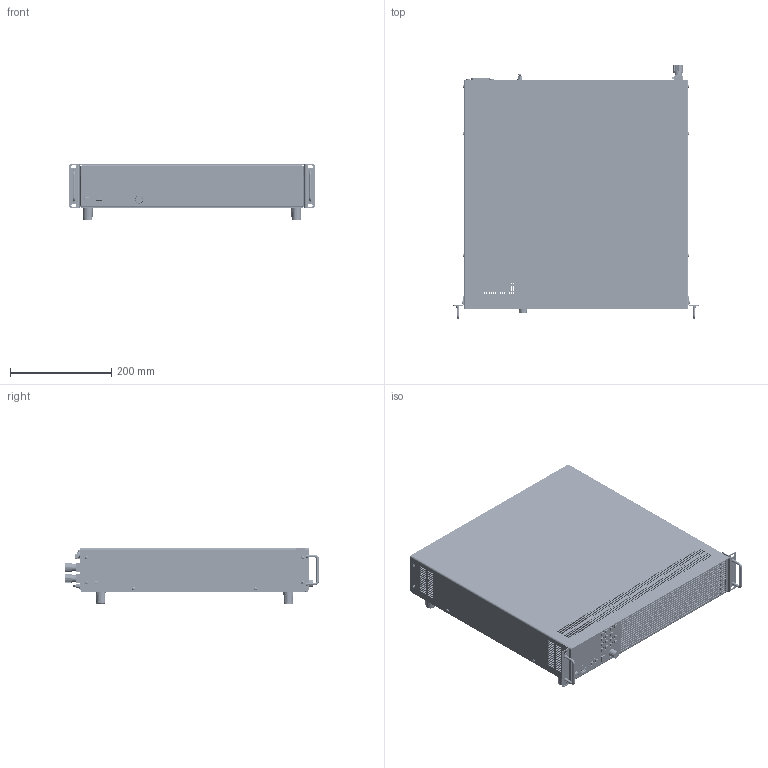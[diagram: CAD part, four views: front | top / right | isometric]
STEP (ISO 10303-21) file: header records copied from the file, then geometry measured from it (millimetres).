
FILE_DESCRIPTION(('STEP AP214'),'1');
FILE_NAME('PLI_M8_19Z_2HE_BPK4_60L_3D_02.step','2024-05-21T07:35:09',(' '),(' '),'Spatial InterOp 3D',' ',' ');
FILE_SCHEMA(('AUTOMOTIVE_DESIGN { 1 0 10303 214 1 1 1 1 }'));
Length unit declared in the file: millimetre
Products named in the file (20): 1458_PLI_19_Zoll_Boden_3D_03; 1617_PLI Frontplatte 19 mit SIL Tastatur_3D_03_mit_Einbauten_und_Overlay_BRB; A$C2C745159; PLI_Frontplatteneinbauten_nur_für_3D_Modellkonstruktion_3D; AutoCreatedBlock_1905; 1460_PLI_19_Zoll_Rückwand_3D_06_mit_Einbauten_BPK4_60L_BRB_02; 3xM2.5_5x5x12; 1F840730; 1E5E0040; *U713; *U714; *U715; 1460_PLI_19_Zoll_Rückwand_3D_06; PEM_M3_; AutoCreatedBlock_1925; AutoCreatedBlock_1911; 459_PLI_19_Zoll_Deckel_3D_03; DIN 965-A; AutoCreatedBlock_1899
Assembly tree (34 placements, depth 4):
  (unnamed)
    1458_PLI_19_Zoll_Boden_3D_03
    1617_PLI Frontplatte 19 mit SIL Tastatur_3D_03_mit_Einbauten_und_Overlay_BRB
      A$C2C745159
      PLI_Frontplatteneinbauten_nur_für_3D_Modellkonstruktion_3D
      AutoCreatedBlock_1905
    1460_PLI_19_Zoll_Rückwand_3D_06_mit_Einbauten_BPK4_60L_BRB_02
      3xM2.5_5x5x12  x2
      1F840730  x2
      1E5E0040
      *U713
      *U714  x4
      *U715  x2
      1460_PLI_19_Zoll_Rückwand_3D_06
        PEM_M3_  x7
        AutoCreatedBlock_1925
      AutoCreatedBlock_1911
    459_PLI_19_Zoll_Deckel_3D_03
    DIN 965-A  x4
    AutoCreatedBlock_1899
Bounding box: 483.4 x 499.72 x 110.48 mm (x, y, z)
Volume: 12295775.5 mm3; surface area: 1630287.5 mm2
Topology: 138 solids, 754 shells, 14580 faces, 40929 edges, 27999 vertices
Faces by surface type: plane 8722, cone 3112, cylinder 2239, bspline 205, torus 198, sphere 102, extrusion 2
Entity records: 569494 total; most frequent: CARTESIAN_POINT 102800, DIRECTION 71711, ORIENTED_EDGE 70630, EDGE_CURVE 37175, VECTOR 28065, LINE 28063, VERTEX_POINT 24867, AXIS2_PLACEMENT_3D 21823
